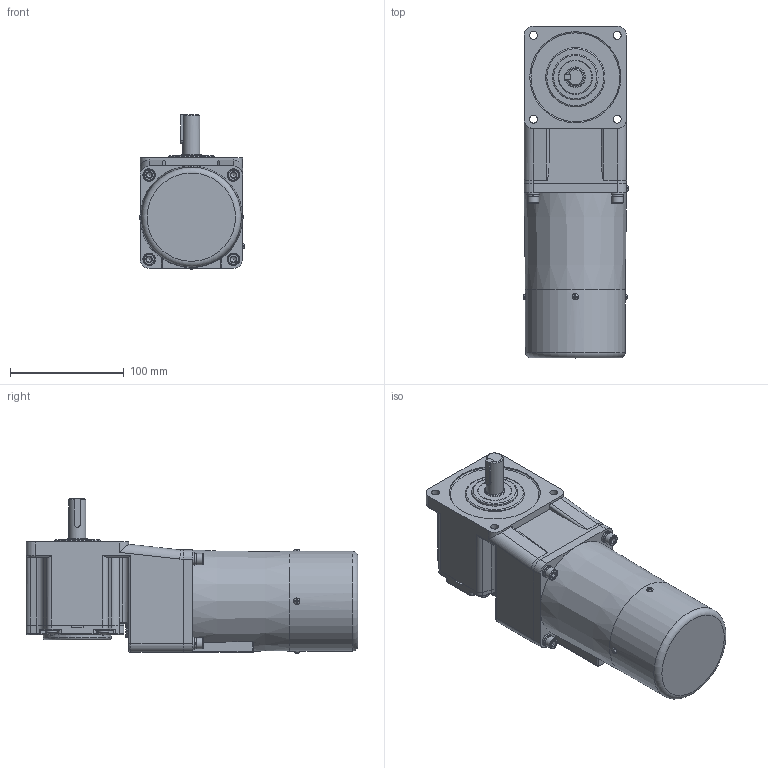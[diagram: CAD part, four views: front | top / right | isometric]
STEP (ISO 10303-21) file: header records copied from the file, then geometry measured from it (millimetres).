
FILE_DESCRIPTION(/* description */ (''),/* implementation_level */ '2;1');
FILE_NAME(/* name */ '90+中实直角-调速刹车-40W.stp',/* time_stamp */ '2022-11-01T13:16:04+08:00',/* author */ (''),/* organization */ (''),/* preprocessor_version */ 'ST-DEVELOPER v16.7',/* originating_system */ 'SIEMENS PLM Software NX 1899',/* authorisation */ '');
FILE_SCHEMA (('AP203_CONFIGURATION_CONTROLLED_3D_DESIGN_OF_MECHANICAL_PARTS_AND_ASSEMBLIES_MIM_LF { 1 0 10303 403 2 1 2}'));
Length unit declared in the file: millimetre
Products named in the file (1): yf1854BC0762njrd
Bounding box: 92.71 x 291.5 x 135.75 mm (x, y, z)
Volume: 1946897 mm3; surface area: 152996.4 mm2
Topology: 15 solids, 15 shells, 629 faces, 1477 edges, 898 vertices
Faces by surface type: plane 324, cylinder 189, torus 56, cone 44, bspline 8, sphere 8
Full cylindrical faces by diameter (mm): 5 x4, 5.5 x4, 5.795 x4, 6.4 x4, 7 x8, 9.5 x4, 10 x4, 11 x4, 15 x1, 18 x1, 30 x1, 40 x1, 52 x1, 60 x1, 67 x1, 76 x1, 80 x1, 86 x2, 87.6 x1
Entity records: 19295 total; most frequent: CARTESIAN_POINT 4273, DIRECTION 2903, ORIENTED_EDGE 2662, EDGE_CURVE 1331, AXIS2_PLACEMENT_3D 1133, VERTEX_POINT 858, EDGE_LOOP 771, LINE 637
